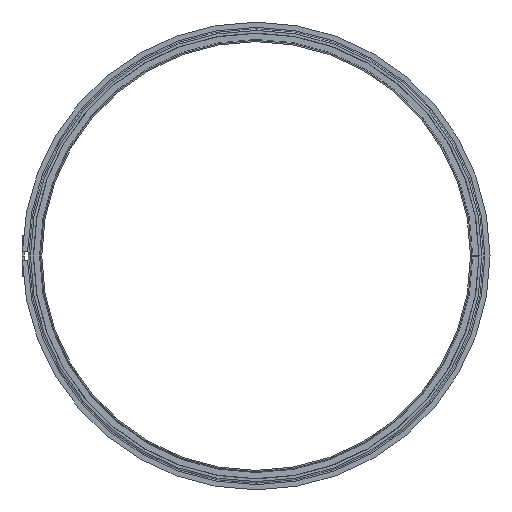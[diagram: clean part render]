
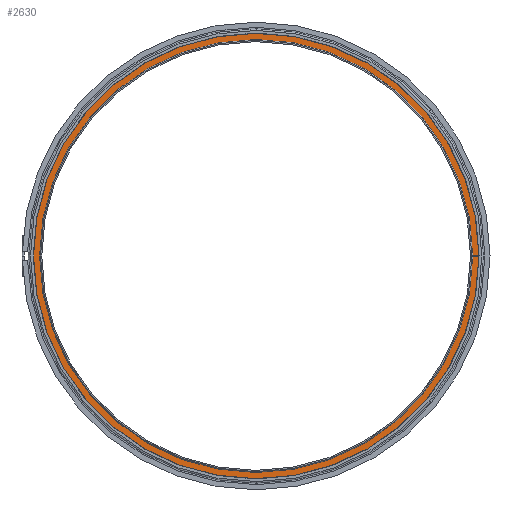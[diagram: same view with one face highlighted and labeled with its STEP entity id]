
A CAD part, left-side view. The second image highlights one B-rep face of the part: STEP entity #2630.
In plain terms, the highlighted planar face has unit normal (-1, 0, 0).
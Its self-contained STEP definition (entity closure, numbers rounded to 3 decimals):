
#623=CARTESIAN_POINT('',(-2.823,257.6,0.));
#624=VERTEX_POINT('',#623);
#633=CARTESIAN_POINT('',(-2.823,-257.598,1.));
#634=VERTEX_POINT('',#633);
#635=CARTESIAN_POINT('',(-2.823,0.,0.0));
#636=DIRECTION('',(1.0,0.0,0.0));
#637=DIRECTION('',(0.0,1.0,0.0));
#638=AXIS2_PLACEMENT_3D('',#635,#636,#637);
#639=CIRCLE('',#638,257.6);
#640=EDGE_CURVE('',#624,#634,#639,.T.);
#830=CARTESIAN_POINT('',(-2.823,250.5,0.));
#831=VERTEX_POINT('',#830);
#847=CARTESIAN_POINT('',(-2.823,-250.498,1.));
#848=VERTEX_POINT('',#847);
#855=CARTESIAN_POINT('',(-2.823,0.,0.0));
#856=DIRECTION('',(1.0,0.0,0.0));
#857=DIRECTION('',(0.0,1.0,0.0));
#858=AXIS2_PLACEMENT_3D('',#855,#856,#857);
#859=CIRCLE('',#858,250.5);
#860=EDGE_CURVE('',#831,#848,#859,.T.);
#2339=CARTESIAN_POINT('',(-2.823,-257.598,-1.));
#2340=VERTEX_POINT('',#2339);
#2341=CARTESIAN_POINT('',(-2.823,-250.498,-1.));
#2342=VERTEX_POINT('',#2341);
#2343=CARTESIAN_POINT('',(-2.823,-257.598,-1.));
#2344=DIRECTION('',(0.0,1.0,0.0));
#2345=VECTOR('',#2344,7.1);
#2346=LINE('',#2343,#2345);
#2347=EDGE_CURVE('',#2340,#2342,#2346,.T.);
#2408=CARTESIAN_POINT('',(-2.823,-250.498,1.));
#2409=DIRECTION('',(0.0,-1.0,0.0));
#2410=VECTOR('',#2409,7.1);
#2411=LINE('',#2408,#2410);
#2412=EDGE_CURVE('',#848,#634,#2411,.T.);
#2473=CARTESIAN_POINT('',(-2.823,0.,0.0));
#2474=DIRECTION('',(1.0,0.0,0.0));
#2475=DIRECTION('',(0.0,1.0,0.0));
#2476=AXIS2_PLACEMENT_3D('',#2473,#2474,#2475);
#2477=CIRCLE('',#2476,250.5);
#2478=EDGE_CURVE('',#2342,#831,#2477,.T.);
#2611=CARTESIAN_POINT('',(-2.823,254.05,0.0));
#2612=DIRECTION('',(-1.0,0.0,0.0));
#2613=DIRECTION('',(0.0,0.0,1.0));
#2614=AXIS2_PLACEMENT_3D('',#2611,#2612,#2613);
#2615=PLANE('',#2614);
#2616=ORIENTED_EDGE('',*,*,#2347,.T.);
#2617=ORIENTED_EDGE('',*,*,#2478,.T.);
#2618=ORIENTED_EDGE('',*,*,#860,.T.);
#2619=ORIENTED_EDGE('',*,*,#2412,.T.);
#2620=ORIENTED_EDGE('',*,*,#640,.F.);
#2621=CARTESIAN_POINT('',(-2.823,0.,0.0));
#2622=DIRECTION('',(1.0,0.0,0.0));
#2623=DIRECTION('',(0.0,1.0,0.0));
#2624=AXIS2_PLACEMENT_3D('',#2621,#2622,#2623);
#2625=CIRCLE('',#2624,257.6);
#2626=EDGE_CURVE('',#2340,#624,#2625,.T.);
#2627=ORIENTED_EDGE('',*,*,#2626,.F.);
#2628=EDGE_LOOP('',(#2616,#2617,#2618,#2619,#2620,#2627));
#2629=FACE_OUTER_BOUND('',#2628,.T.);
#2630=ADVANCED_FACE('',(#2629),#2615,.T.);
